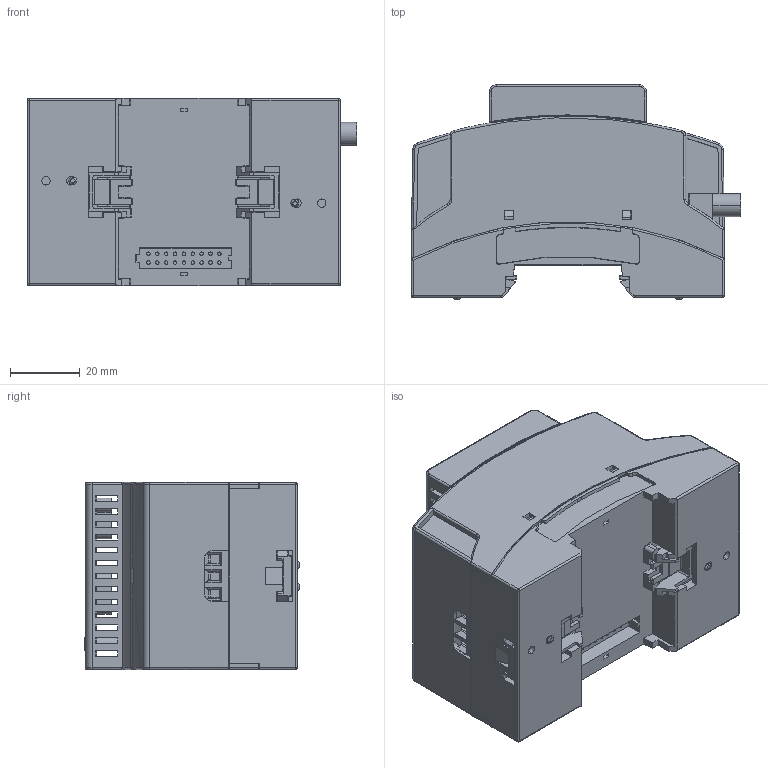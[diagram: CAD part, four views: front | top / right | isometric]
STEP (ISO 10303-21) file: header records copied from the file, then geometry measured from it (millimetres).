
FILE_DESCRIPTION (( 'STEP AP214' ), '1' );
FILE_NAME ('恲攪 玶210.STEP', '2020-03-03T12:28:21', ( '' ), ( '' ), 'SwSTEP 2.0', 'SolidWorks 2019', '' );
FILE_SCHEMA (( 'AUTOMOTIVE_DESIGN' ));
Length unit declared in the file: millimetre
Products named in the file (10): 恲攪 玶210; OW_PÌ210_001F01M; ÏÌ210. Êðûøêà êëåììíàÿ 53.6; (891)ﾊﾓﾂﾔ.731143.420.891(ﾎ魵瑙韃); PVM01D03; (1041)ÊÓÂÔ.742211.420.1041 (ÏËÊ110 Çàùåëêà Din ÏËÊ110); (2040)ﾊﾓﾂﾔ.301152.410.2040(ﾎ魵瑙韃 ﾏﾕ210); ÏÌ210. Êðûøêà êëåììíàÿ 35.6; 咸210. 署赅 卵 53.6; PVM01C02
Assembly tree (10 placements, depth 3):
  恲攪 玶210
    咸210. 署赅 卵 53.6
    PVM01C02
    (2040)ﾊﾓﾂﾔ.301152.410.2040(ﾎ魵瑙韃 ﾏﾕ210)
      (1041)ÊÓÂÔ.742211.420.1041 (ÏËÊ110 Çàùåëêà Din ÏËÊ110)  x2
      (891)ﾊﾓﾂﾔ.731143.420.891(ﾎ魵瑙韃)
    ÏÌ210. Êðûøêà êëåììíàÿ 35.6
    ÏÌ210. Êðûøêà êëåììíàÿ 53.6
    PVM01D03
    OW_PÌ210_001F01M
Bounding box: 94.35 x 61.34 x 53.6 mm (x, y, z)
Volume: 59346.9 mm3; surface area: 88397.5 mm2
Topology: 10 solids, 10 shells, 2830 faces, 8141 edges, 5349 vertices
Faces by surface type: plane 1980, bspline 375, cylinder 364, cone 72, torus 29, sphere 10
Entity records: 114532 total; most frequent: CARTESIAN_POINT 22113, ORIENTED_EDGE 15780, DIRECTION 12562, EDGE_CURVE 7890, VECTOR 6198, LINE 6198, VERTEX_POINT 5199, AXIS2_PLACEMENT_3D 3182
